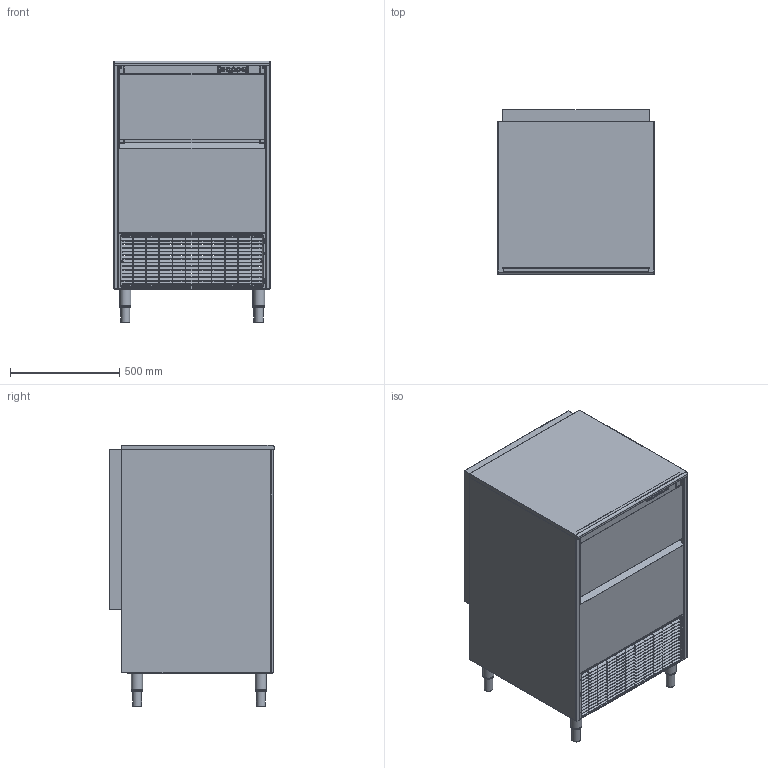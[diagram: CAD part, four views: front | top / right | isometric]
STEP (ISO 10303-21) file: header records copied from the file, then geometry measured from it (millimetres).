
FILE_DESCRIPTION(/* description */ ('Unknown'),/* implementation_level */ '2;1');
FILE_NAME(/* name */ 'CAD-122',/* time_stamp */ '2023-03-08T11:51:17+01:00',/* author */ ('Unknown'),/* organization */ ('Unknown'),/* preprocessor_version */ 'ST-DEVELOPER v18.102',/* originating_system */ 'Solid Edge',/* authorisation */ 'Unknown');
FILE_SCHEMA (('CONFIG_CONTROL_DESIGN'));
Products named in the file (24): IQN 240C A 220V-50HZ R290; 32-1+3258UDF_R01; 32-3+3434_R01; 32-3+3435_R01; 32-4+3436U; 32-5+3746U; 32-10+3969U; 49-177+33607; 32-6+3770; 32-8+83; 32-8+82; 32-18; 32-11+5237_oa_0; 32-12+1793; 35-66; 32-9+3773A_R01; 32-29; 49-71+30566_R01_oa_1; 49-29+30451_R01; 49-72_R00; 49-72_1_R00; 49-72_2_R00; 32-30; 49-182+33601_R01
Assembly tree (28 placements, depth 4):
  IQN 240C A 220V-50HZ R290
    32-1+3258UDF_R01
    32-3+3434_R01
    32-3+3435_R01
    32-4+3436U
    32-5+3746U
    32-10+3969U  x2
    49-177+33607
    32-6+3770
    32-8+83
    32-8+82
    32-18  x2
    32-11+5237_oa_0
      32-12+1793
    35-66
    32-9+3773A_R01
    32-29
    49-71+30566_R01_oa_1
      49-29+30451_R01
      49-72_R00
        49-72_1_R00
        49-72_2_R00
    32-30  x4
    49-182+33601_R01
Bounding box: 715 x 753.7 x 1198.41 mm (x, y, z)
Volume: 5418841.6 mm3; surface area: 9680612.9 mm2
Topology: 25 solids, 25 shells, 5154 faces, 15085 edges, 9920 vertices
Faces by surface type: plane 3184, cylinder 1240, bspline 576, cone 107, torus 41, sphere 6
Full cylindrical faces by diameter (mm): 2.4 x21, 2.7 x28, 2.75 x2, 2.9 x28, 3.5 x26, 4.2 x4, 4.25 x59, 4.5 x2, 5 x26, 5.5 x2, 6 x18, 6.5 x6, 7 x4, 8 x10, 8.519 x2, 9 x2, 10 x4, 13 x6, 15 x14, 20 x1, 30 x1, 38 x4, 40 x4, 50 x4, 51 x4
Entity records: 188070 total; most frequent: CARTESIAN_POINT 55264, ORIENTED_EDGE 28814, DIRECTION 24301, EDGE_CURVE 14407, VERTEX_POINT 9648, LINE 9399, VECTOR 9399, AXIS2_PLACEMENT_3D 7451
